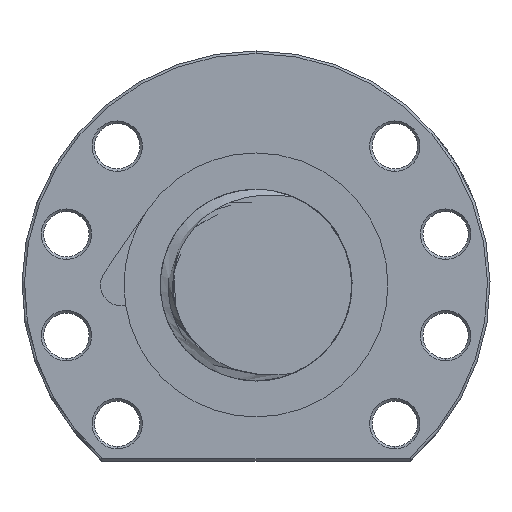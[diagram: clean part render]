
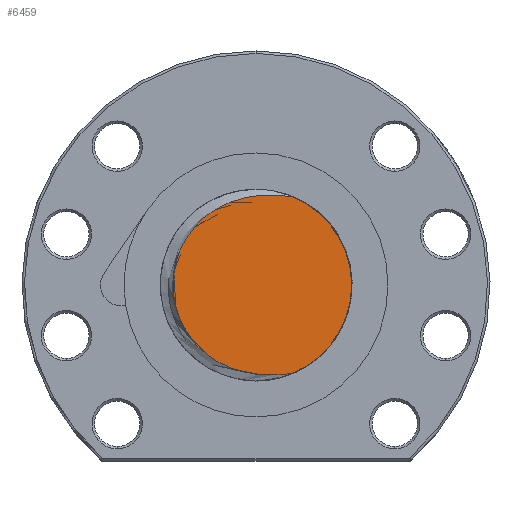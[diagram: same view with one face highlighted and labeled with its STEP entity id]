
A CAD part, left-side view. The second image highlights one B-rep face of the part: STEP entity #6459.
In plain terms, the highlighted planar face has unit normal (-1, 0, 0).
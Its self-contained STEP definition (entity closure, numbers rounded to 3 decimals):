
#5904 = VERTEX_POINT ( 'NONE', #8321 ) ;
#5908 = VERTEX_POINT ( 'NONE', #8314 ) ;
#5910 = EDGE_CURVE ( 'NONE', #5908, #5904, #8263, .T. ) ;
#6459 = ADVANCED_FACE ( 'NONE', ( #11969 ), #11962, .F. ) ;
#6461 = EDGE_LOOP ( 'NONE', ( #6462, #6463 ) ) ;
#6462 = ORIENTED_EDGE ( 'NONE', *, *, #5910, .F. ) ;
#6463 = ORIENTED_EDGE ( 'NONE', *, *, #6464, .T. ) ;
#6464 = EDGE_CURVE ( 'NONE', #5908, #5904, #11956, .T. ) ;
#8221 = DIRECTION ( 'NONE',  ( 0., 1., 0. ) ) ;
#8222 = DIRECTION ( 'NONE',  ( 1., 0., 0. ) ) ;
#8261 = CARTESIAN_POINT ( 'NONE',  ( -130., 0., 0. ) ) ;
#8262 = AXIS2_PLACEMENT_3D ( 'NONE', #8261, #8222, #8221 ) ;
#8263 = CIRCLE ( 'NONE', #8262, 19. ) ;
#8314 = CARTESIAN_POINT ( 'NONE',  ( -130., -7.08, 17.632 ) ) ;
#8321 = CARTESIAN_POINT ( 'NONE',  ( -130., -7.078, -17.633 ) ) ;
#11888 = CARTESIAN_POINT ( 'NONE',  ( -130., -7.078, -17.633 ) ) ;
#11889 = CARTESIAN_POINT ( 'NONE',  ( -130., -6.726, -17.642 ) ) ;
#11890 = CARTESIAN_POINT ( 'NONE',  ( -130., -6.375, -17.67 ) ) ;
#11891 = CARTESIAN_POINT ( 'NONE',  ( -130., -5.674, -17.726 ) ) ;
#11892 = CARTESIAN_POINT ( 'NONE',  ( -130., -5.323, -17.755 ) ) ;
#11893 = CARTESIAN_POINT ( 'NONE',  ( -130., -4.27, -17.83 ) ) ;
#11894 = CARTESIAN_POINT ( 'NONE',  ( -130., -3.568, -17.865 ) ) ;
#11895 = CARTESIAN_POINT ( 'NONE',  ( -130., -2.161, -17.877 ) ) ;
#11896 = CARTESIAN_POINT ( 'NONE',  ( -130., -1.454, -17.855 ) ) ;
#11897 = CARTESIAN_POINT ( 'NONE',  ( -130., -0.051, -17.746 ) ) ;
#11898 = CARTESIAN_POINT ( 'NONE',  ( -130., 0.644, -17.658 ) ) ;
#11899 = CARTESIAN_POINT ( 'NONE',  ( -130., 2.02, -17.414 ) ) ;
#11900 = CARTESIAN_POINT ( 'NONE',  ( -130., 2.7, -17.257 ) ) ;
#11901 = CARTESIAN_POINT ( 'NONE',  ( -130., 3.71, -16.965 ) ) ;
#11902 = CARTESIAN_POINT ( 'NONE',  ( -130., 4.044, -16.859 ) ) ;
#11903 = CARTESIAN_POINT ( 'NONE',  ( -130., 4.709, -16.626 ) ) ;
#11904 = CARTESIAN_POINT ( 'NONE',  ( -130., 5.04, -16.5 ) ) ;
#11905 = CARTESIAN_POINT ( 'NONE',  ( -130., 6.667, -15.829 ) ) ;
#11906 = CARTESIAN_POINT ( 'NONE',  ( -130., 7.892, -15.157 ) ) ;
#11907 = CARTESIAN_POINT ( 'NONE',  ( -130., 9.61, -13.942 ) ) ;
#11908 = CARTESIAN_POINT ( 'NONE',  ( -130., 10.165, -13.499 ) ) ;
#11909 = CARTESIAN_POINT ( 'NONE',  ( -130., 11.209, -12.558 ) ) ;
#11910 = CARTESIAN_POINT ( 'NONE',  ( -130., 11.7, -12.06 ) ) ;
#11911 = CARTESIAN_POINT ( 'NONE',  ( -130., 12.619, -11.01 ) ) ;
#11912 = CARTESIAN_POINT ( 'NONE',  ( -130., 13.049, -10.458 ) ) ;
#11913 = CARTESIAN_POINT ( 'NONE',  ( -130., 13.845, -9.299 ) ) ;
#11914 = CARTESIAN_POINT ( 'NONE',  ( -130., 14.212, -8.691 ) ) ;
#11915 = CARTESIAN_POINT ( 'NONE',  ( -130., 15.187, -6.83 ) ) ;
#11916 = CARTESIAN_POINT ( 'NONE',  ( -130., 15.683, -5.525 ) ) ;
#11917 = CARTESIAN_POINT ( 'NONE',  ( -130., 16.103, -3.812 ) ) ;
#11918 = CARTESIAN_POINT ( 'NONE',  ( -130., 16.177, -3.466 ) ) ;
#11919 = CARTESIAN_POINT ( 'NONE',  ( -130., 16.303, -2.774 ) ) ;
#11920 = CARTESIAN_POINT ( 'NONE',  ( -130., 16.355, -2.427 ) ) ;
#11921 = CARTESIAN_POINT ( 'NONE',  ( -130., 16.481, -1.386 ) ) ;
#11922 = CARTESIAN_POINT ( 'NONE',  ( -130., 16.524, -0.69 ) ) ;
#11923 = CARTESIAN_POINT ( 'NONE',  ( -130., 16.525, 0.707 ) ) ;
#11924 = CARTESIAN_POINT ( 'NONE',  ( -130., 16.483, 1.409 ) ) ;
#11925 = CARTESIAN_POINT ( 'NONE',  ( -130., 16.31, 2.813 ) ) ;
#11926 = CARTESIAN_POINT ( 'NONE',  ( -130., 16.181, 3.502 ) ) ;
#11927 = CARTESIAN_POINT ( 'NONE',  ( -130., 15.844, 4.857 ) ) ;
#11928 = CARTESIAN_POINT ( 'NONE',  ( -130., 15.635, 5.523 ) ) ;
#11929 = CARTESIAN_POINT ( 'NONE',  ( -130., 15.263, 6.504 ) ) ;
#11930 = CARTESIAN_POINT ( 'NONE',  ( -130., 15.129, 6.828 ) ) ;
#11931 = CARTESIAN_POINT ( 'NONE',  ( -130., 14.84, 7.47 ) ) ;
#11932 = CARTESIAN_POINT ( 'NONE',  ( -130., 14.685, 7.788 ) ) ;
#11933 = CARTESIAN_POINT ( 'NONE',  ( -130., 13.867, 9.349 ) ) ;
#11934 = CARTESIAN_POINT ( 'NONE',  ( -130., 13.074, 10.496 ) ) ;
#11935 = CARTESIAN_POINT ( 'NONE',  ( -130., 11.919, 11.808 ) ) ;
#11936 = CARTESIAN_POINT ( 'NONE',  ( -130., 11.68, 12.064 ) ) ;
#11937 = CARTESIAN_POINT ( 'NONE',  ( -130., 11.184, 12.564 ) ) ;
#11938 = CARTESIAN_POINT ( 'NONE',  ( -130., 10.928, 12.809 ) ) ;
#11939 = CARTESIAN_POINT ( 'NONE',  ( -130., 10.143, 13.515 ) ) ;
#11940 = CARTESIAN_POINT ( 'NONE',  ( -130., 9.597, 13.951 ) ) ;
#11941 = CARTESIAN_POINT ( 'NONE',  ( -130., 7.895, 15.158 ) ) ;
#11942 = CARTESIAN_POINT ( 'NONE',  ( -130., 6.673, 15.828 ) ) ;
#11943 = CARTESIAN_POINT ( 'NONE',  ( -130., 4.058, 16.903 ) ) ;
#11944 = CARTESIAN_POINT ( 'NONE',  ( -130., 2.712, 17.289 ) ) ;
#11945 = CARTESIAN_POINT ( 'NONE',  ( -130., 0.642, 17.66 ) ) ;
#11946 = CARTESIAN_POINT ( 'NONE',  ( -130., -0.059, 17.749 ) ) ;
#11947 = CARTESIAN_POINT ( 'NONE',  ( -130., -1.464, 17.858 ) ) ;
#11948 = CARTESIAN_POINT ( 'NONE',  ( -130., -2.167, 17.879 ) ) ;
#11949 = CARTESIAN_POINT ( 'NONE',  ( -130., -3.571, 17.864 ) ) ;
#11950 = CARTESIAN_POINT ( 'NONE',  ( -130., -4.273, 17.828 ) ) ;
#11951 = CARTESIAN_POINT ( 'NONE',  ( -130., -5.325, 17.752 ) ) ;
#11952 = CARTESIAN_POINT ( 'NONE',  ( -130., -5.676, 17.723 ) ) ;
#11953 = CARTESIAN_POINT ( 'NONE',  ( -130., -6.377, 17.668 ) ) ;
#11954 = CARTESIAN_POINT ( 'NONE',  ( -130., -6.728, 17.641 ) ) ;
#11955 = CARTESIAN_POINT ( 'NONE',  ( -130., -7.08, 17.632 ) ) ;
#11956 = B_SPLINE_CURVE_WITH_KNOTS ( 'NONE', 3,
 ( #11955, #11954, #11953, #11952, #11951, #11950, #11949, #11948, #11947, #11946, #11945, #11944, #11943, #11942, #11941, #11940, #11939, #11938, #11937, #11936, #11935, #11934, #11933, #11932, #11931, #11930, #11929, #11928, #11927, #11926, #11925, #11924, #11923, #11922, #11921, #11920, #11919, #11918, #11917, #11916, #11915, #11914, #11913, #11912, #11911, #11910, #11909, #11908, #11907, #11906, #11905, #11904, #11903, #11902, #11901, #11900, #11899, #11898, #11897, #11896, #11895, #11894, #11893, #11892, #11891, #11890, #11889, #11888 ),
 .UNSPECIFIED., .F., .F.,
 ( 4, 2, 2, 2, 2, 2, 2, 2, 2, 2, 2, 2, 2, 2, 2, 2, 2, 2, 2, 2, 2, 2, 2, 2, 2, 2, 2, 2, 2, 2, 2, 2, 2, 4 ),
 ( 0.003, 0.004, 0.005, 0.007, 0.009, 0.011, 0.016, 0.02, 0.022, 0.023, 0.024, 0.028, 0.029, 0.03, 0.032, 0.035, 0.037, 0.039, 0.04, 0.041, 0.045, 0.047, 0.049, 0.051, 0.053, 0.058, 0.059, 0.06, 0.062, 0.064, 0.066, 0.068, 0.069, 0.07 ),
 .UNSPECIFIED. ) ;
#11958 = DIRECTION ( 'NONE',  ( 0., 0., -1. ) ) ;
#11959 = DIRECTION ( 'NONE',  ( 1., 0., 0. ) ) ;
#11960 = CARTESIAN_POINT ( 'NONE',  ( -130., 0., 0. ) ) ;
#11961 = AXIS2_PLACEMENT_3D ( 'NONE', #11960, #11959, #11958 ) ;
#11962 = PLANE ( 'NONE',  #11961 ) ;
#11969 = FACE_OUTER_BOUND ( 'NONE', #6461, .T. ) ;
